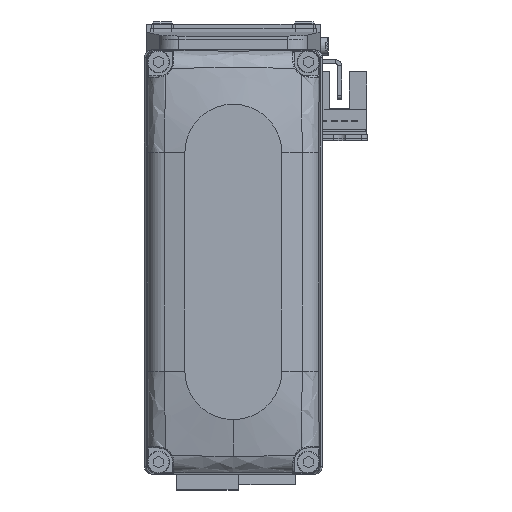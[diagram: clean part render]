
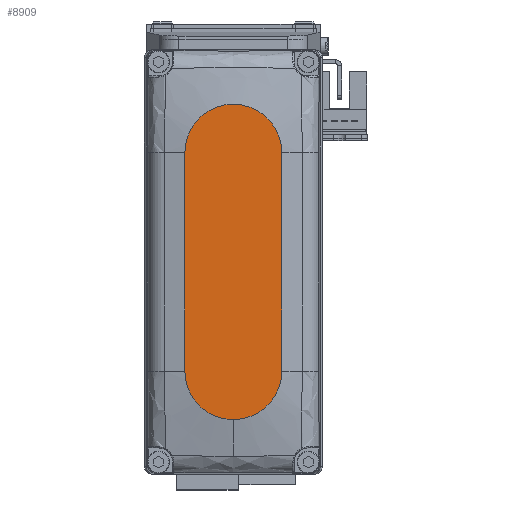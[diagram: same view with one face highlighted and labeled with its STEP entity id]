
A CAD part, top view. The second image highlights one B-rep face of the part: STEP entity #8909.
In plain terms, the highlighted planar face has unit normal (0, 0, 1).
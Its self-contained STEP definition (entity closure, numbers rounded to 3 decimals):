
#1150 = CARTESIAN_POINT ( 'NONE',  ( -27., -12., 25. ) ) ;
#1160 = EDGE_CURVE ( 'NONE', #8305, #38234, #37149, .T. ) ;
#1242 = DIRECTION ( 'NONE',  ( 0., 0., 1. ) ) ;
#2119 = EDGE_CURVE ( 'NONE', #29791, #25078, #9884, .T. ) ;
#3575 = CIRCLE ( 'NONE', #25948, 12. ) ;
#7900 = EDGE_CURVE ( 'NONE', #26037, #8305, #8116, .T. ) ;
#8116 = CIRCLE ( 'NONE', #30461, 12. ) ;
#8279 = DIRECTION ( 'NONE',  ( 0., 0., 1. ) ) ;
#8305 = VERTEX_POINT ( 'NONE', #1150 ) ;
#8909 = ADVANCED_FACE ( 'NONE', ( #11284 ), #23504, .T. ) ;
#9721 = CARTESIAN_POINT ( 'NONE',  ( -27., -12., 25. ) ) ;
#9884 = CIRCLE ( 'NONE', #32229, 12. ) ;
#10581 = DIRECTION ( 'NONE',  ( 0., 0., 1. ) ) ;
#11031 = EDGE_CURVE ( 'NONE', #25078, #26037, #12655, .T. ) ;
#11032 = ORIENTED_EDGE ( 'NONE', *, *, #7900, .T. ) ;
#11284 = FACE_OUTER_BOUND ( 'NONE', #26389, .T. ) ;
#12589 = CARTESIAN_POINT ( 'NONE',  ( 27., 0., 25. ) ) ;
#12655 = LINE ( 'NONE', #24859, #39529 ) ;
#12878 = ORIENTED_EDGE ( 'NONE', *, *, #11031, .T. ) ;
#13433 = DIRECTION ( 'NONE',  ( 1., 0., 0. ) ) ;
#16602 = CARTESIAN_POINT ( 'NONE',  ( 27., 12., 25. ) ) ;
#19560 = CARTESIAN_POINT ( 'NONE',  ( 39., 0., 25. ) ) ;
#19878 = VECTOR ( 'NONE', #21945, 1000. ) ;
#20484 = DIRECTION ( 'NONE',  ( 1., 0., 0. ) ) ;
#21945 = DIRECTION ( 'NONE',  ( 1., 0., 0. ) ) ;
#22810 = DIRECTION ( 'NONE',  ( 1., 0., 0. ) ) ;
#23504 = PLANE ( 'NONE',  #33728 ) ;
#23549 = ORIENTED_EDGE ( 'NONE', *, *, #1160, .T. ) ;
#24795 = DIRECTION ( 'NONE',  ( 0., 0., 1. ) ) ;
#24859 = CARTESIAN_POINT ( 'NONE',  ( -27., 12., 25. ) ) ;
#25078 = VERTEX_POINT ( 'NONE', #16602 ) ;
#25713 = ORIENTED_EDGE ( 'NONE', *, *, #2119, .T. ) ;
#25948 = AXIS2_PLACEMENT_3D ( 'NONE', #12589, #24795, #36997 ) ;
#26037 = VERTEX_POINT ( 'NONE', #39169 ) ;
#26389 = EDGE_LOOP ( 'NONE', ( #12878, #11032, #23549, #29314, #25713 ) ) ;
#28648 = CARTESIAN_POINT ( 'NONE',  ( 27., 0., 25. ) ) ;
#29314 = ORIENTED_EDGE ( 'NONE', *, *, #30932, .T. ) ;
#29791 = VERTEX_POINT ( 'NONE', #19560 ) ;
#30461 = AXIS2_PLACEMENT_3D ( 'NONE', #37988, #10581, #22810 ) ;
#30932 = EDGE_CURVE ( 'NONE', #38234, #29791, #3575, .T. ) ;
#32229 = AXIS2_PLACEMENT_3D ( 'NONE', #28648, #1242, #13433 ) ;
#33728 = AXIS2_PLACEMENT_3D ( 'NONE', #35700, #8279, #20484 ) ;
#35290 = CARTESIAN_POINT ( 'NONE',  ( 27., -12., 25. ) ) ;
#35700 = CARTESIAN_POINT ( 'NONE',  ( 0., 0., 25. ) ) ;
#36997 = DIRECTION ( 'NONE',  ( 1., 0., 0. ) ) ;
#37061 = DIRECTION ( 'NONE',  ( -1., 0., 0. ) ) ;
#37149 = LINE ( 'NONE', #9721, #19878 ) ;
#37988 = CARTESIAN_POINT ( 'NONE',  ( -27., 0., 25. ) ) ;
#38234 = VERTEX_POINT ( 'NONE', #35290 ) ;
#39169 = CARTESIAN_POINT ( 'NONE',  ( -27., 12., 25. ) ) ;
#39529 = VECTOR ( 'NONE', #37061, 1000. ) ;
